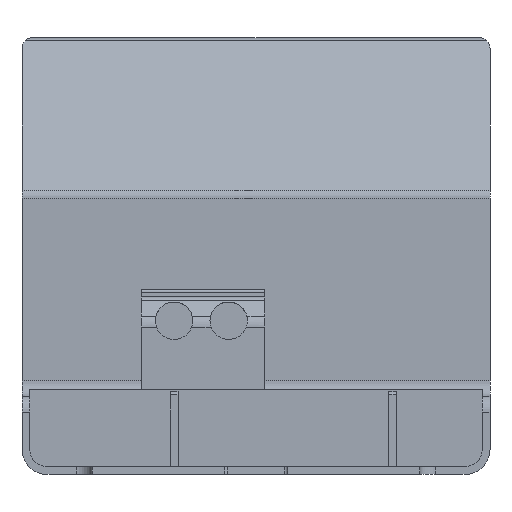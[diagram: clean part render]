
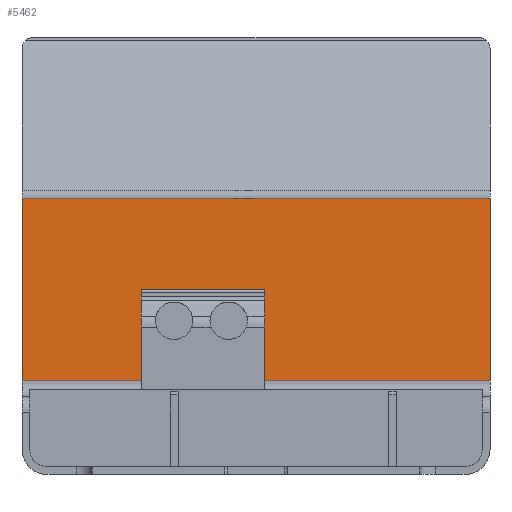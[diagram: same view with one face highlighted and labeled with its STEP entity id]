
A CAD part, front view. The second image highlights one B-rep face of the part: STEP entity #5462.
In plain terms, the highlighted planar face has unit normal (0, -1, 0).
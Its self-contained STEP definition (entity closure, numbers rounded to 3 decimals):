
#1712=DIRECTION('',(1.,0.,0.));
#1713=VECTOR('',#1712,30.);
#1714=CARTESIAN_POINT('',(-15.,-85.7,6.));
#1715=LINE('',#1714,#1713);
#2196=DIRECTION('',(0.,0.,1.));
#2197=VECTOR('',#2196,11.71);
#2198=CARTESIAN_POINT('',(-15.,-85.7,6.));
#2199=LINE('',#2198,#2197);
#2203=DIRECTION('',(1.,0.,0.));
#2204=VECTOR('',#2203,30.);
#2205=CARTESIAN_POINT('',(-15.,-85.7,17.71));
#2206=LINE('',#2205,#2204);
#2210=DIRECTION('',(0.,0.,-1.));
#2211=VECTOR('',#2210,11.71);
#2212=CARTESIAN_POINT('',(15.,-85.7,17.71));
#2213=LINE('',#2212,#2211);
#3853=CARTESIAN_POINT('',(-15.,-85.7,17.71));
#3854=CARTESIAN_POINT('',(15.,-85.7,17.71));
#3855=VERTEX_POINT('',#3853);
#3856=VERTEX_POINT('',#3854);
#3953=CARTESIAN_POINT('',(15.,-85.7,6.));
#3954=VERTEX_POINT('',#3953);
#3955=CARTESIAN_POINT('',(-15.,-85.7,6.));
#3956=VERTEX_POINT('',#3955);
#5450=CARTESIAN_POINT('',(-15.,-85.7,5.45));
#5451=DIRECTION('',(0.,-1.,0.));
#5452=DIRECTION('',(0.,0.,1.));
#5453=AXIS2_PLACEMENT_3D('',#5450,#5451,#5452);
#5454=PLANE('',#5453);
#5455=ORIENTED_EDGE('',*,*,#5088,.F.);
#5456=ORIENTED_EDGE('',*,*,#4014,.T.);
#5458=ORIENTED_EDGE('',*,*,#5457,.T.);
#5459=ORIENTED_EDGE('',*,*,#4194,.T.);
#5460=EDGE_LOOP('',(#5455,#5456,#5458,#5459));
#5461=FACE_OUTER_BOUND('',#5460,.F.);
#4014=EDGE_CURVE('',#3956,#3855,#2199,.T.);
#4194=EDGE_CURVE('',#3856,#3954,#2213,.T.);
#5088=EDGE_CURVE('',#3956,#3954,#1715,.T.);
#5457=EDGE_CURVE('',#3855,#3856,#2206,.T.);
#5462=ADVANCED_FACE('',(#5461),#5454,.T.);
